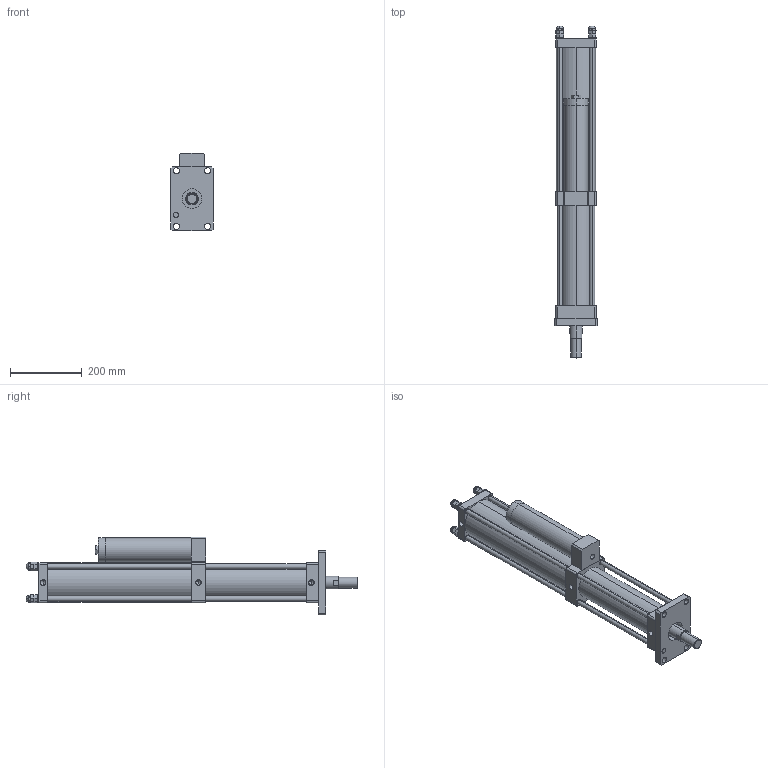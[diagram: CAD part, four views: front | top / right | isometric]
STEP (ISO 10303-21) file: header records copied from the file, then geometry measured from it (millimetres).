
FILE_DESCRIPTION (( 'STEP AP203' ), '1' );
FILE_NAME ('MPTC-80-20-8T.STEP', '2016-03-15T07:27:19', ( 'WIN' ), ( '' ), 'SwSTEP 2.0', 'SolidWorks 2014', '' );
FILE_SCHEMA (( 'CONFIG_CONTROL_DESIGN' ));
Length unit declared in the file: millimetre
Products named in the file (1): MPTC-80-20-8T
Bounding box: 118 x 926.07 x 217 mm (x, y, z)
Volume: 6738297.2 mm3; surface area: 775548 mm2
Topology: 17 solids, 17 shells, 390 faces, 959 edges, 558 vertices
Faces by surface type: plane 180, cylinder 90, bspline 48, torus 46, cone 26
Entity records: 12581 total; most frequent: CARTESIAN_POINT 3666, DIRECTION 1874, ORIENTED_EDGE 1786, EDGE_CURVE 893, AXIS2_PLACEMENT_3D 686, VERTEX_POINT 558, LINE 502, VECTOR 502
